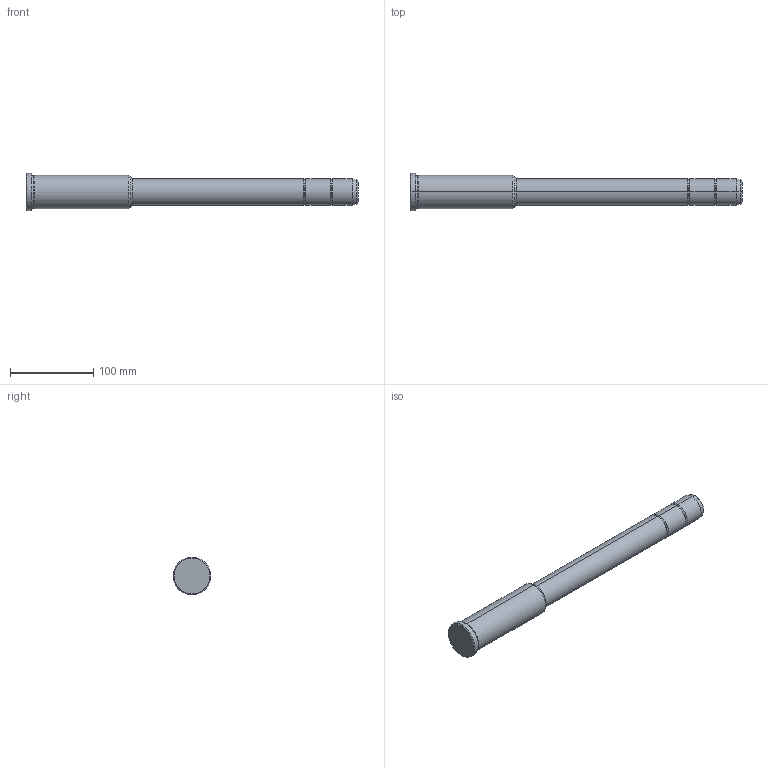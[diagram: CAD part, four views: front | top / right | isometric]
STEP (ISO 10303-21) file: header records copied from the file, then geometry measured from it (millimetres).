
FILE_DESCRIPTION(('CATIA V5 STEP Exchange'),'2;1');
FILE_NAME('C:\Users\Utente\Desktop\IO LAVORO\3D X SITO CF\X SITO\PLASTICA\351\351-32X126X400.stp','2021-09-15T12:21:59+00:00',('none'),('none'),'CATIA Version 5 Release 20 GA (IN-10)','CATIA V5 STEP AP203','none');
FILE_SCHEMA(('CONFIG_CONTROL_DESIGN'));
Length unit declared in the file: millimetre
Products named in the file (1): 351-32X126X400
Bounding box: 400 x 45 x 45 mm (x, y, z)
Volume: 379831.5 mm3; surface area: 46240.6 mm2
Topology: 1 solids, 1 shells, 36 faces, 102 edges, 70 vertices
Faces by surface type: torus 16, cylinder 10, cone 6, plane 4
Entity records: 1292 total; most frequent: CARTESIAN_POINT 321, ORIENTED_EDGE 204, DIRECTION 166, AXIS2_PLACEMENT_3D 115, EDGE_CURVE 102, CIRCLE 78, VERTEX_POINT 70, EDGE_LOOP 38
